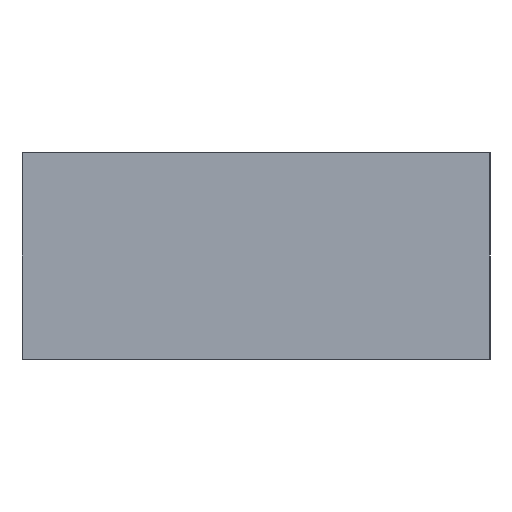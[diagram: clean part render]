
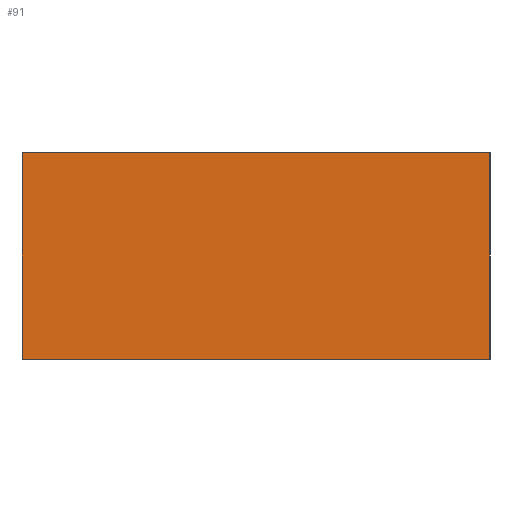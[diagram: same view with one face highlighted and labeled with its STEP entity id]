
A CAD part, left-side view. The second image highlights one B-rep face of the part: STEP entity #91.
In plain terms, the highlighted planar face has unit normal (-1, 0, 0).
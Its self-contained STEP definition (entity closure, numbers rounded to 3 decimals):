
#91 = ADVANCED_FACE( '', ( #128 ), #129, .F. );
#128 = FACE_OUTER_BOUND( '', #166, .T. );
#129 = PLANE( '', #167 );
#166 = EDGE_LOOP( '', ( #286, #287, #288, #289 ) );
#167 = AXIS2_PLACEMENT_3D( '', #290, #291, #292 );
#286 = ORIENTED_EDGE( '', *, *, #325, .F. );
#287 = ORIENTED_EDGE( '', *, *, #331, .F. );
#288 = ORIENTED_EDGE( '', *, *, #337, .F. );
#289 = ORIENTED_EDGE( '', *, *, #335, .T. );
#290 = CARTESIAN_POINT( '', ( -3.5, 0., 0. ) );
#291 = DIRECTION( '', ( 1., 0., 0. ) );
#292 = DIRECTION( '', ( 0., 0., -1. ) );
#325 = EDGE_CURVE( '', #379, #381, #382, .T. );
#331 = EDGE_CURVE( '', #389, #379, #391, .T. );
#335 = EDGE_CURVE( '', #396, #381, #397, .T. );
#337 = EDGE_CURVE( '', #396, #389, #399, .T. );
#379 = VERTEX_POINT( '', #500 );
#381 = VERTEX_POINT( '', #503 );
#382 = LINE( '', #504, #505 );
#389 = VERTEX_POINT( '', #516 );
#391 = LINE( '', #519, #520 );
#396 = VERTEX_POINT( '', #571 );
#397 = LINE( '', #572, #573 );
#399 = LINE( '', #576, #577 );
#500 = CARTESIAN_POINT( '', ( -3.5, -26., 5.75 ) );
#503 = CARTESIAN_POINT( '', ( -3.5, -26., -5.75 ) );
#504 = CARTESIAN_POINT( '', ( -3.5, -26., 5.75 ) );
#505 = VECTOR( '', #620, 1. );
#516 = CARTESIAN_POINT( '', ( -3.5, 0., 5.75 ) );
#519 = CARTESIAN_POINT( '', ( -3.5, 0., 5.75 ) );
#520 = VECTOR( '', #626, 1. );
#571 = CARTESIAN_POINT( '', ( -3.5, 0., -5.75 ) );
#572 = CARTESIAN_POINT( '', ( -3.5, 0., -5.75 ) );
#573 = VECTOR( '', #631, 1. );
#576 = CARTESIAN_POINT( '', ( -3.5, 0., -5.75 ) );
#577 = VECTOR( '', #633, 1. );
#620 = DIRECTION( '', ( 0., 0., -1. ) );
#626 = DIRECTION( '', ( 0., -1., 0. ) );
#631 = DIRECTION( '', ( 0., -1., 0. ) );
#633 = DIRECTION( '', ( 0., 0., 1. ) );
